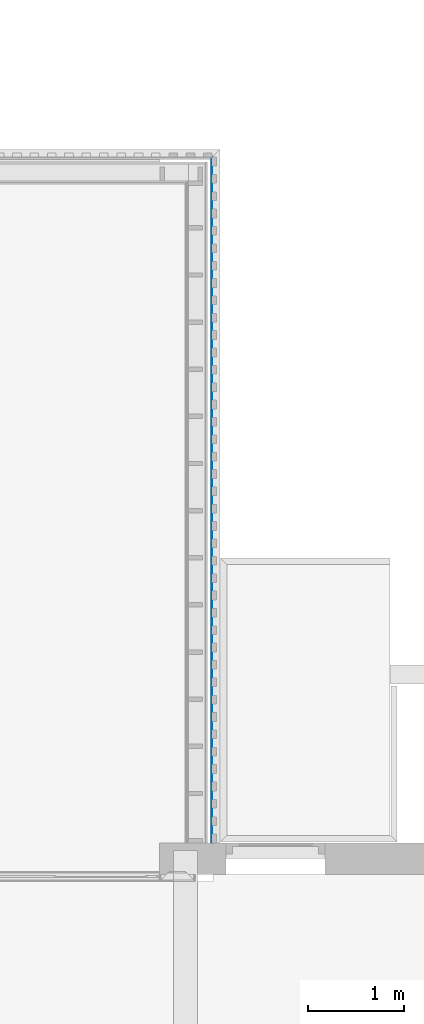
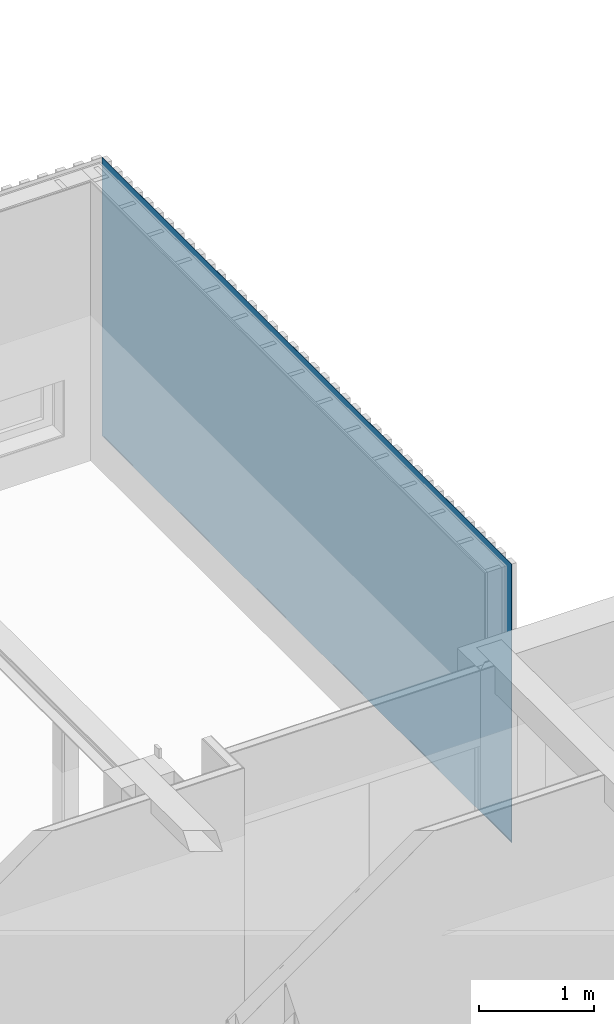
# One storey, part 71 of 99: 1 building element part, 1 element without a shape of its own.
"""IFC2X3 building model written with IfcOpenShell, lengths in millimetres."""

from ifc_helpers import new_model, entity, si_unit, converted_unit, derived_unit, money_unit, direction, frame, origin_with_axes, place, context, subcontext, project, spatial, faceted_brep, material, type_object, element, aggregate, save


model = new_model("IFC2X3")

# Units and contexts
model_context = context("Model", 3, precision=0.01, world=origin_with_axes(), true_north=direction((0.0, 1.0)))
body_context = subcontext(model_context, "Body", "Model", "MODEL_VIEW")
ifc_project = project(units=[si_unit("LENGTHUNIT", "METRE", prefix="MILLI"), si_unit("AREAUNIT", "SQUARE_METRE"), si_unit("VOLUMEUNIT", "CUBIC_METRE"), converted_unit("PLANEANGLEUNIT", "DEGREE", entity("IfcPlaneAngleMeasure", 0.0174532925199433), si_unit("PLANEANGLEUNIT", "RADIAN"), dimensions=[0, 0, 0, 0, 0, 0, 0]), money_unit("EUR"), converted_unit("TIMEUNIT", "Year", entity("IfcTimeMeasure", 31557600.0), si_unit("TIMEUNIT", "SECOND"), dimensions=[0, 0, 1, 0, 0, 0, 0]), si_unit("MASSUNIT", "GRAM", prefix="KILO"), si_unit("THERMODYNAMICTEMPERATUREUNIT", "DEGREE_CELSIUS"), si_unit("LUMINOUSINTENSITYUNIT", "LUMEN"), si_unit("ENERGYUNIT", "JOULE", prefix="MEGA"), derived_unit("THERMALCONDUCTANCEUNIT", [(si_unit("POWERUNIT", "WATT"), 1), (si_unit("LENGTHUNIT", "METRE"), -1), (si_unit("THERMODYNAMICTEMPERATUREUNIT", "KELVIN"), -1)]), derived_unit("SPECIFICHEATCAPACITYUNIT", [(si_unit("ENERGYUNIT", "JOULE"), 1), (si_unit("MASSUNIT", "GRAM", prefix="KILO"), -1), (si_unit("THERMODYNAMICTEMPERATUREUNIT", "KELVIN"), -1)]), derived_unit("MASSDENSITYUNIT", [(si_unit("MASSUNIT", "GRAM", prefix="KILO"), 1), (si_unit("VOLUMEUNIT", "CUBIC_METRE"), -1)])], contexts=[model_context])

# Site, building, storey
site_placement = place(None, origin_with_axes())
site = spatial("IfcSite", under=ifc_project, at=site_placement, Name="Site", CompositionType="ELEMENT")
building_placement = place(site_placement, origin_with_axes())
building = spatial("IfcBuilding", under=site, at=building_placement, Name="Naam gebouw", CompositionType="ELEMENT")
storey_placement = place(building_placement, frame((0.0, 0.0, 7650.0), z_axis=(0.0, 0.0, 1.0), x_axis=(1.0, 0.0, 0.0)))
storey = spatial("IfcBuildingStorey", under=building, at=storey_placement, Name="2e verdieping N", CompositionType="ELEMENT", Elevation=7650.0)

# Wall, building element part
wall_type = type_object("IfcWallType", Name="Gevel decowall-hsb 278", PredefinedType="NOTDEFINED")
wall_placement = place(storey_placement, frame((53999.99999999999, 20656.0124251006, 939.9999999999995), z_axis=(0.0, 0.0, 1.0), x_axis=(0.0, 1.0, 0.0)))
wall = element("IfcWall", 1, at=wall_placement, inside=storey, type_object=wall_type, Name="_Wand-x")
ifc_material = material(Name="Metaal - Staal AFW")
building_element_part_placement = place(wall_placement, origin_with_axes())
building_element_part = element("IfcBuildingElementPart", 2, at=building_element_part_placement, material=ifc_material, Name="Metaal - Staal AFW", context=body_context, shape_type="Brep", body=[
    faceted_brep([(7127.899999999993, -273.9999999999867, 0.0), (7127.899999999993, -273.9999999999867, 12.4279591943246), (7127.899999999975, -277.9999999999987, 12.42795919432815), (7127.899999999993, -277.9999999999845, 0.0), (0.0, -274.0000000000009, 13.13326711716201), (7123.899999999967, -273.9999999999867, 13.13326711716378), (0.0, -274.0000000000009, 0.0), (0.0, -277.9999999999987, 12.42795919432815), (0.0, -277.9999999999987, 0.0)], [[[0, 1, 2, 3]], [[4, 5, 1, 0, 6]], [[1, 5, 2]], [[3, 2, 7, 8]], [[6, 0, 3, 8]], [[7, 2, 5, 4]], [[8, 7, 4, 6]]]),
    faceted_brep([(0.0, -274.0000000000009, 15.16412034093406), (7123.899999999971, -273.9999999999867, 15.16412034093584), (7127.899999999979, -277.9999999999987, 14.45881241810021), (0.0, -277.9999999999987, 14.45881241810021), (7127.899999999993, -273.9999999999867, 2960.000000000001), (7127.899999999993, -273.9999999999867, 14.45881241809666), (0.0, -274.0000000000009, 2960.000000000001), (0.0, -277.9999999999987, 2960.000000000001), (7127.899999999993, -277.9999999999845, 2960.000000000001)], [[[0, 1, 2, 3]], [[4, 5, 1, 0, 6]], [[1, 5, 2]], [[7, 3, 2, 8]], [[6, 0, 3, 7]], [[8, 2, 5, 4]], [[7, 8, 4, 6]]]),
])
aggregate(wall, [building_element_part])

save(model, "model.ifc")
